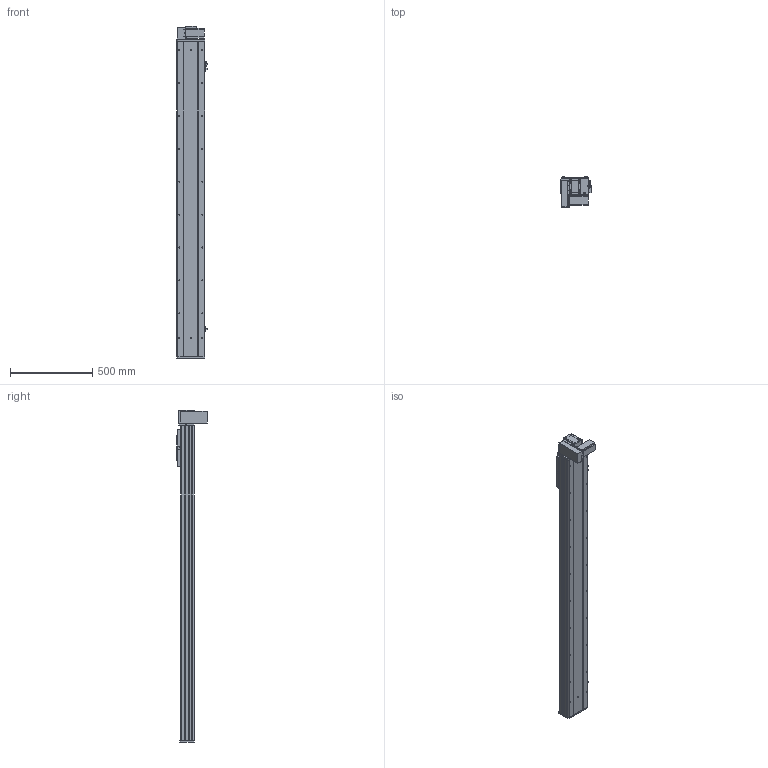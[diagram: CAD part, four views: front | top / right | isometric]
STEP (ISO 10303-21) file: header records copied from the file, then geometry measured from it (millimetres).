
FILE_DESCRIPTION (( 'STEP AP203' ), '1' );
FILE_NAME ('Y170CB-D105-S1600-BM-P400W.STEP', '2020-02-20T07:07:12', ( '微软用户' ), ( '微软中国' ), 'SwSTEP 2.0', 'SolidWorks 2017', '' );
FILE_SCHEMA (( 'CONFIG_CONTROL_DESIGN' ));
Length unit declared in the file: millimetre
Products named in the file (18): 0B-萇儂楊擘啣; 70CB-詩湍--; san松下电机400不带刹车----; Y100-135俋离換覜ん--; 70CB-掛极-; Y170CB-陔俋离換覜結え---; --70CB --喘謫眊楊擘啣-; Y1埴倛裔; 70CB-耜裔啣-; 17B-耜蚾蟀諉啣----; 70C--詩湍揤踡え-; 00B-俋欶BM--163; 70CB--耜裔; 70B喘謫眊----; 70C-雄赽釱-奻-; B-源倛裔啣; Y170CB-D105-S1600-BM-P400W; 0C--雄赽釱俋欶-170
Assembly tree (21 placements, depth 2):
  Y170CB-D105-S1600-BM-P400W
    B-源倛裔啣
    0B-萇儂楊擘啣
    san松下电机400不带刹车----
    70CB-掛极-
    --70CB --喘謫眊楊擘啣-
    70CB-耜裔啣-  x2
    70C--詩湍揤踡え-  x2
    70CB--耜裔
    70C-雄赽釱-奻-
    0C--雄赽釱俋欶-170
    70CB-詩湍--
    Y100-135俋离換覜ん--  x3
    Y170CB-陔俋离換覜結え---
    Y1埴倛裔
    17B-耜蚾蟀諉啣----
    00B-俋欶BM--163
    70B喘謫眊----
Bounding box: 183.5 x 184 x 2016 mm (x, y, z)
Volume: 8901970.5 mm3; surface area: 3203944.2 mm2
Topology: 21 solids, 21 shells, 1031 faces, 2765 edges, 1834 vertices
Faces by surface type: cylinder 545, plane 462, cone 24
Entity records: 32912 total; most frequent: CARTESIAN_POINT 6036, DIRECTION 5354, ORIENTED_EDGE 5012, EDGE_CURVE 2506, AXIS2_PLACEMENT_3D 1968, VERTEX_POINT 1664, LINE 1418, VECTOR 1418
